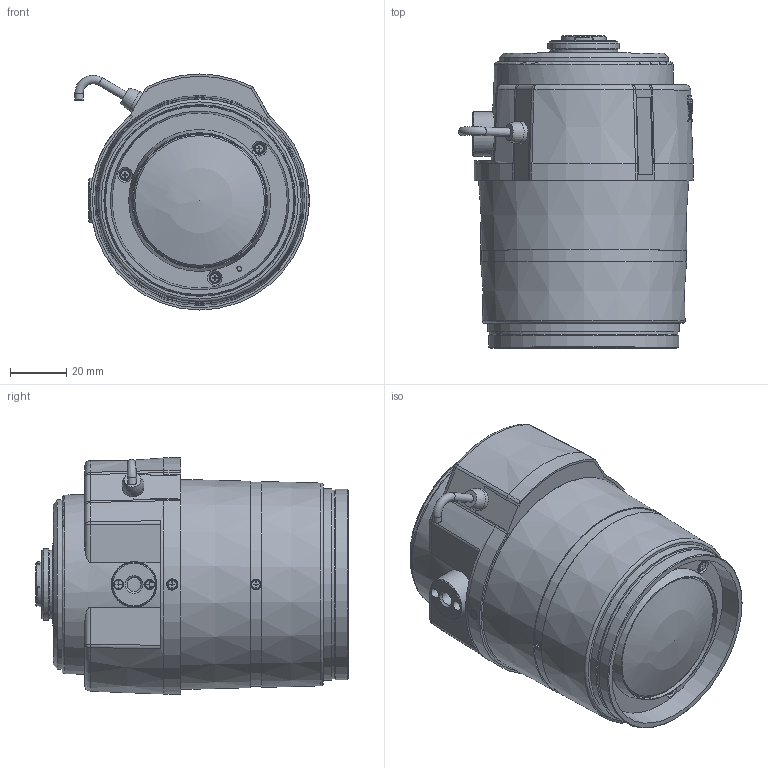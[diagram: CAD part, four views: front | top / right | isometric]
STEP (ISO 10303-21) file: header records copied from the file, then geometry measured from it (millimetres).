
FILE_DESCRIPTION(/* description */ ('Unknown'),/* implementation_level */ '2;1');
FILE_NAME(/* name */ 'Tentative 3D-drawing of EG6Z0915TCS-MPWIR',/* time_stamp */ '2018-03-06T09:44:02+09:00',/* author */ ('Unknown'),/* organization */ ('Unknown'),/* preprocessor_version */ 'ST-DEVELOPER v16.7',/* originating_system */ 'DEX',/* authorisation */ $);
FILE_SCHEMA (('AUTOMOTIVE_DESIGN {1 0 10303 214 3 1 1}'));
Length unit declared in the file: millimetre
Products named in the file (1): 24th-Jan-2018_Tentative 3D-drawing of EG6Z0915TCS-MPWIR
Bounding box: 83.17 x 110.71 x 83.73 mm (x, y, z)
Volume: 430027.7 mm3; surface area: 39776.8 mm2
Topology: 1 solids, 25 shells, 923 faces, 2294 edges, 1511 vertices
Faces by surface type: plane 518, cylinder 193, cone 125, bspline 55, torus 26, sphere 6
Full cylindrical faces by diameter (mm): 1.1 x3, 1.2 x2, 1.4 x3, 1.5 x3, 1.51 x1, 2 x12, 2.1 x12, 2.2 x6, 3 x2, 3.6 x2, 3.7 x6, 4 x2, 4.975 x1, 6 x1, 7.699 x1, 9.9 x1, 15.7 x1, 16.2 x1, 23 x1, 24.2 x1, 25.4 x1, 29.8 x1, 30.2 x1, 43.2 x1, 47 x1, 60 x1, 66.9 x1, 67.5 x1, 68 x1, 72.431 x1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
Entity records: 35104 total; most frequent: CARTESIAN_POINT 7690, DIRECTION 4274, ORIENTED_EDGE 4140, EDGE_CURVE 2070, AXIS2_PLACEMENT_3D 1607, VERTEX_POINT 1436, EDGE_LOOP 1196, FACE_BOUND 1196
